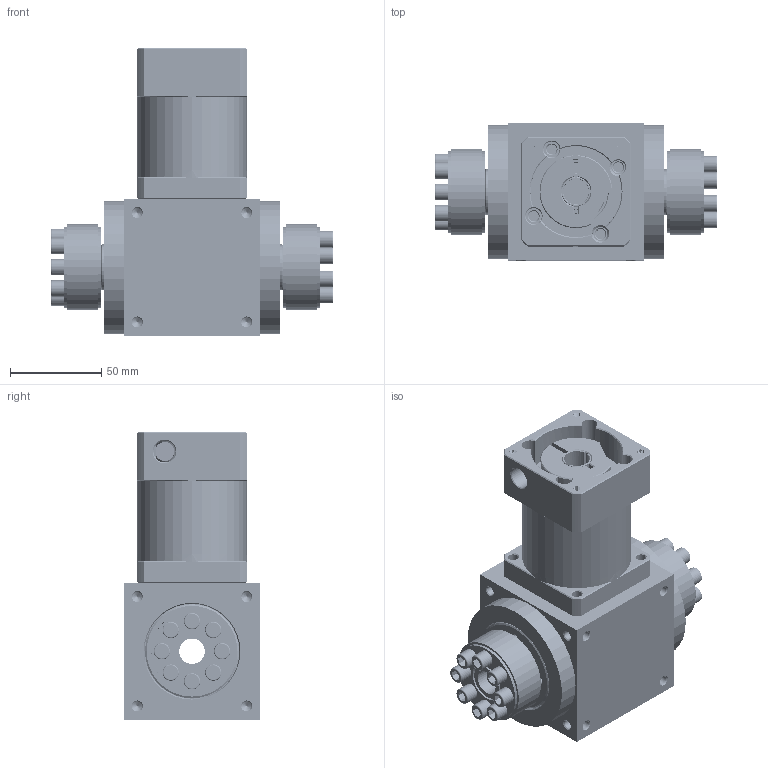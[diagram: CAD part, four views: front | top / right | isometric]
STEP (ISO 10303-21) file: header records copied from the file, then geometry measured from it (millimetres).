
FILE_DESCRIPTION (( 'STEP AP203' ), '1' );
FILE_NAME ('LAT75-LAB60-C-ZJ2-19-47.STEP', '2025-01-15T07:05:30', ( '微软用户' ), ( '微软中国' ), 'SwSTEP 2.0', 'SolidWorks 2022', '' );
FILE_SCHEMA (( 'CONFIG_CONTROL_DESIGN' ));
Length unit declared in the file: millimetre
Products named in the file (1): LAT75-LAB60-C-ZJ2-19-47
Bounding box: 155 x 75 x 157.5 mm (x, y, z)
Volume: 691779.8 mm3; surface area: 190677.3 mm2
Topology: 34 solids, 34 shells, 2277 faces, 5971 edges, 3793 vertices
Faces by surface type: cylinder 970, bspline 551, cone 365, plane 349, torus 42
Entity records: 142518 total; most frequent: CARTESIAN_POINT 93353, ORIENTED_EDGE 11858, DIRECTION 8139, EDGE_CURVE 5929, VERTEX_POINT 3793, AXIS2_PLACEMENT_3D 3286, EDGE_LOOP 2506, ADVANCED_FACE 2277
